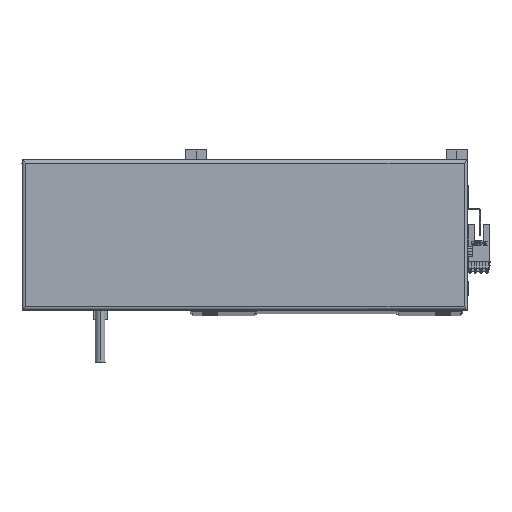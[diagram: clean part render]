
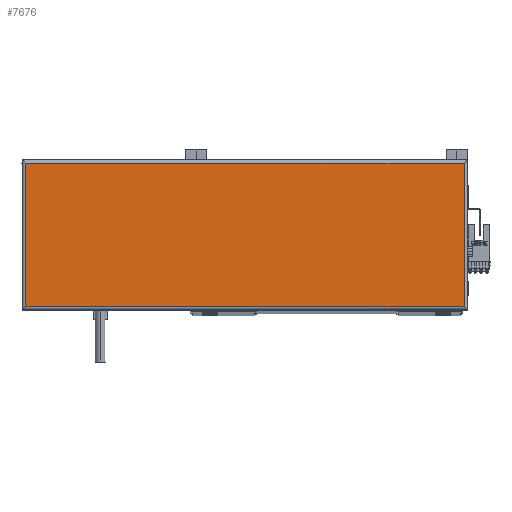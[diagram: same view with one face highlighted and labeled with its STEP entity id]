
A CAD part, top view. The second image highlights one B-rep face of the part: STEP entity #7676.
In plain terms, the highlighted planar face has unit normal (0, 0, 1).
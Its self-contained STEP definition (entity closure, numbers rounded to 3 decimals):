
#862 = VECTOR ( 'NONE', #35982, 1000. ) ;
#896 = DIRECTION ( 'NONE',  ( 0., -1., 0. ) ) ;
#1245 = VERTEX_POINT ( 'NONE', #42131 ) ;
#2274 = ORIENTED_EDGE ( 'NONE', *, *, #29883, .T. ) ;
#4747 = VERTEX_POINT ( 'NONE', #13971 ) ;
#6061 = VECTOR ( 'NONE', #26208, 1000. ) ;
#6647 = CARTESIAN_POINT ( 'NONE',  ( 0., 88., 44.8 ) ) ;
#6737 = VECTOR ( 'NONE', #896, 1000. ) ;
#7676 = ADVANCED_FACE ( 'NONE', ( #28474 ), #35657, .T. ) ;
#8454 = CARTESIAN_POINT ( 'NONE',  ( 133.5, 45., 44.8 ) ) ;
#9119 = LINE ( 'NONE', #49762, #22503 ) ;
#13971 = CARTESIAN_POINT ( 'NONE',  ( 265., 2., 44.8 ) ) ;
#14066 = LINE ( 'NONE', #28309, #6737 ) ;
#15537 = EDGE_LOOP ( 'NONE', ( #21669, #45809, #2274, #28505 ) ) ;
#20151 = CARTESIAN_POINT ( 'NONE',  ( 267., 2., 44.8 ) ) ;
#21669 = ORIENTED_EDGE ( 'NONE', *, *, #43486, .T. ) ;
#22503 = VECTOR ( 'NONE', #49102, 1000. ) ;
#23297 = EDGE_CURVE ( 'NONE', #26089, #1245, #37121, .T. ) ;
#23414 = LINE ( 'NONE', #20151, #862 ) ;
#23438 = DIRECTION ( 'NONE',  ( 1., 0., 0. ) ) ;
#25674 = CARTESIAN_POINT ( 'NONE',  ( 265., 88., 44.8 ) ) ;
#25967 = CARTESIAN_POINT ( 'NONE',  ( 2., 2., 44.8 ) ) ;
#26089 = VERTEX_POINT ( 'NONE', #25674 ) ;
#26208 = DIRECTION ( 'NONE',  ( -1., 0., 0. ) ) ;
#28309 = CARTESIAN_POINT ( 'NONE',  ( 2., 0., 44.8 ) ) ;
#28474 = FACE_OUTER_BOUND ( 'NONE', #15537, .T. ) ;
#28505 = ORIENTED_EDGE ( 'NONE', *, *, #49833, .T. ) ;
#29883 = EDGE_CURVE ( 'NONE', #1245, #44861, #14066, .T. ) ;
#34986 = DIRECTION ( 'NONE',  ( 0., 0., 1. ) ) ;
#35657 = PLANE ( 'NONE',  #46522 ) ;
#35982 = DIRECTION ( 'NONE',  ( 1., 0., 0. ) ) ;
#37121 = LINE ( 'NONE', #6647, #6061 ) ;
#42131 = CARTESIAN_POINT ( 'NONE',  ( 2., 88., 44.8 ) ) ;
#43486 = EDGE_CURVE ( 'NONE', #4747, #26089, #9119, .T. ) ;
#44861 = VERTEX_POINT ( 'NONE', #25967 ) ;
#45809 = ORIENTED_EDGE ( 'NONE', *, *, #23297, .T. ) ;
#46522 = AXIS2_PLACEMENT_3D ( 'NONE', #8454, #34986, #23438 ) ;
#49102 = DIRECTION ( 'NONE',  ( 0., 1., 0. ) ) ;
#49762 = CARTESIAN_POINT ( 'NONE',  ( 265., 90., 44.8 ) ) ;
#49833 = EDGE_CURVE ( 'NONE', #44861, #4747, #23414, .T. ) ;
